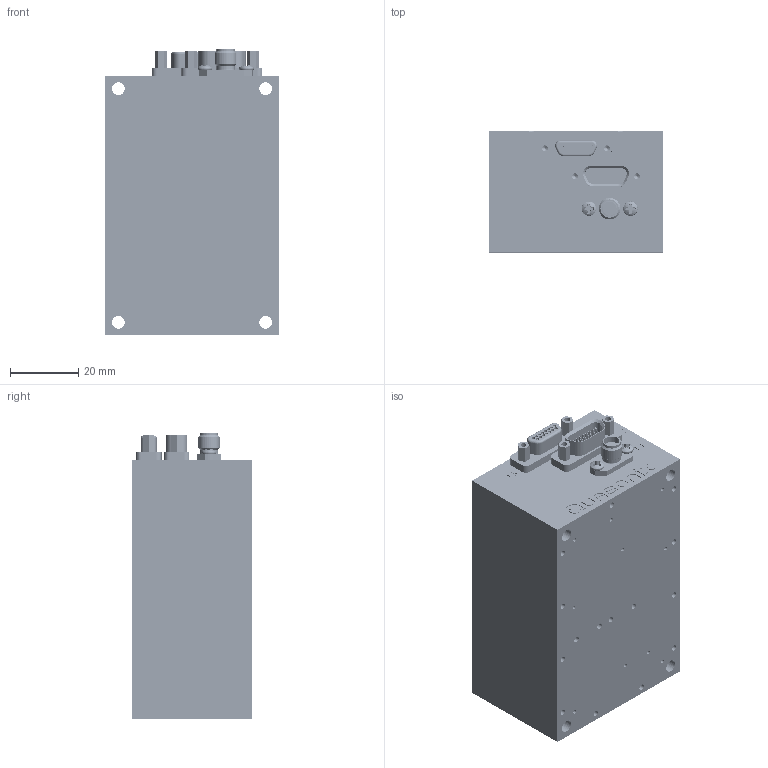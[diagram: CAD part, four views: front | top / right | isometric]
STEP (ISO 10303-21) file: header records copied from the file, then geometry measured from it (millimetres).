
FILE_DESCRIPTION (( 'STEP AP203' ), '1' );
FILE_NAME ('08AH_8-5-14.STEP', '2015-10-07T15:16:59', ( '' ), ( '' ), 'SwSTEP 2.0', 'SolidWorks 2014', '' );
FILE_SCHEMA (( 'CONFIG_CONTROL_DESIGN' ));
Length unit declared in the file: inch
Products named in the file (17): QSX-TTS-23-DPC-I; QSX-T3-2X3-LSBND-SHLD-; QSX-3BTX-2.5X3.5-PRGMCVR-B; QSX-T3-2X3-S_C_FILTER-G; MCMASTER-CARR-FLAT-HEAD-PHILLIPS-#0-80X0.125-91771A052_91771A052; QSX-TTS-23-DMP_NOMOD-F; MCMASTER-CARR-FLAT-HEAD-PHILLIPS-#2-56X1.25-91771A141_91771A141; RADIALL-SMA_TO_MMBX-FLANGEMOUNT-ADAPTER; MCMASTER-CARR-FLAT-HEAD-PHILLIPS-#2-56X0.750-91771A084_91771A084; GLENAIR-SOCKET-MDM15-M8351304-B05N; GLENAIR-PLUG-MDM15-M8351303-B05N; QSX-2_56-JACKPOST-; MCMASTER-CARR-FLAT-HEAD-PHILLIPS-#2-56X0.3125-91771A078_91771A078; MCMASTER-CARR-PAN-HEAD-PHILLIPS-#2-56X0.1875-91772A076_91772A076; 08AH_8-5-14; QSX-TTS-23-DPH-C; QSX-TX-2X3-L_S-PA-HSNG-A
Assembly tree (36 placements, depth 2):
  08AH_8-5-14
    QSX-TX-2X3-L_S-PA-HSNG-A
    QSX-T3-2X3-LSBND-SHLD-
    QSX-T3-2X3-S_C_FILTER-G
    QSX-TTS-23-DMP_NOMOD-F
    RADIALL-SMA_TO_MMBX-FLANGEMOUNT-ADAPTER
    GLENAIR-SOCKET-MDM15-M8351304-B05N
    QSX-2_56-JACKPOST-  x4
    MCMASTER-CARR-PAN-HEAD-PHILLIPS-#2-56X0.1875-91772A076_91772A076  x2
    QSX-TTS-23-DPH-C
    QSX-TTS-23-DPC-I
    QSX-3BTX-2.5X3.5-PRGMCVR-B  x3
    MCMASTER-CARR-FLAT-HEAD-PHILLIPS-#0-80X0.125-91771A052_91771A052  x6
    MCMASTER-CARR-FLAT-HEAD-PHILLIPS-#2-56X1.25-91771A141_91771A141  x5
    MCMASTER-CARR-FLAT-HEAD-PHILLIPS-#2-56X0.750-91771A084_91771A084  x5
    GLENAIR-PLUG-MDM15-M8351303-B05N
    MCMASTER-CARR-FLAT-HEAD-PHILLIPS-#2-56X0.3125-91771A078_91771A078  x2
Bounding box: 50.8 x 35.4 x 84.14 mm (x, y, z)
Volume: 49949.5 mm3; surface area: 71550.3 mm2
Topology: 37 solids, 37 shells, 8268 faces, 21546 edges, 13492 vertices
Faces by surface type: cylinder 3786, cone 2803, plane 1444, bspline 137, torus 92, sphere 6
Entity records: 134442 total; most frequent: CARTESIAN_POINT 36380, ORIENTED_EDGE 20502, DIRECTION 19531, EDGE_CURVE 10251, AXIS2_PLACEMENT_3D 7146, VERTEX_POINT 6633, LINE 5239, VECTOR 5239
